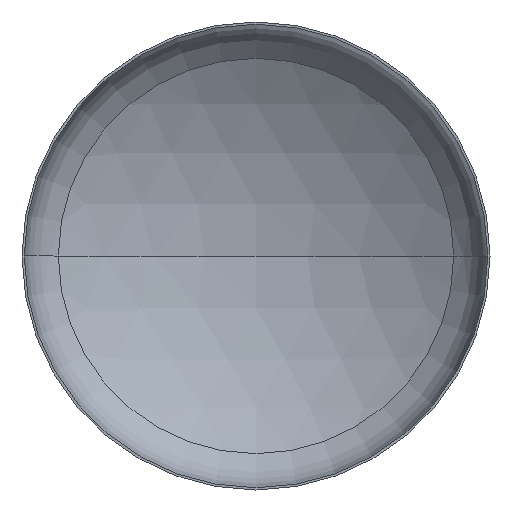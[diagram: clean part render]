
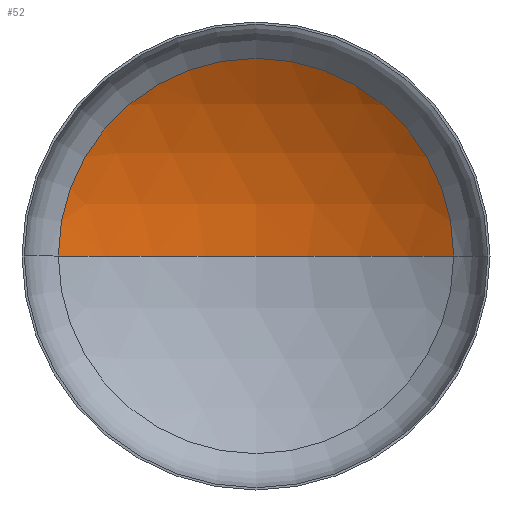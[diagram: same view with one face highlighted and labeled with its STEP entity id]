
A CAD part, front view. The second image highlights one B-rep face of the part: STEP entity #52.
In plain terms, the highlighted spherical face has radius 5600 mm.
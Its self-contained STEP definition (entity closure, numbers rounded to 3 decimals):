
#24 = CARTESIAN_POINT ( 'NONE',  ( 0., 1871.067, 0. ) ) ;
#29 = DIRECTION ( 'NONE',  ( 0., 0., -1. ) ) ;
#35 = VERTEX_POINT ( 'NONE', #233 ) ;
#52 = ADVANCED_FACE ( 'NONE', ( #108 ), #378, .F. ) ;
#55 = CIRCLE ( 'NONE', #65, 5600. ) ;
#65 = AXIS2_PLACEMENT_3D ( 'NONE', #302, #118, #283 ) ;
#72 = VERTEX_POINT ( 'NONE', #24 ) ;
#76 = AXIS2_PLACEMENT_3D ( 'NONE', #281, #29, #324 ) ;
#78 = AXIS2_PLACEMENT_3D ( 'NONE', #262, #391, #257 ) ;
#83 = ORIENTED_EDGE ( 'NONE', *, *, #125, .T. ) ;
#94 = ORIENTED_EDGE ( 'NONE', *, *, #128, .T. ) ;
#97 = AXIS2_PLACEMENT_3D ( 'NONE', #209, #215, #171 ) ;
#108 = FACE_OUTER_BOUND ( 'NONE', #134, .T. ) ;
#118 = DIRECTION ( 'NONE',  ( 0., 0., 1. ) ) ;
#125 = EDGE_CURVE ( 'NONE', #35, #142, #196, .T. ) ;
#128 = EDGE_CURVE ( 'NONE', #72, #35, #363, .T. ) ;
#131 = EDGE_CURVE ( 'NONE', #72, #142, #55, .T. ) ;
#134 = EDGE_LOOP ( 'NONE', ( #160, #94, #83 ) ) ;
#142 = VERTEX_POINT ( 'NONE', #343 ) ;
#160 = ORIENTED_EDGE ( 'NONE', *, *, #131, .F. ) ;
#171 = DIRECTION ( 'NONE',  ( -1., 0., 0. ) ) ;
#196 = CIRCLE ( 'NONE', #78, 2956.106 ) ;
#209 = CARTESIAN_POINT ( 'NONE',  ( 0., -3728.933, 0. ) ) ;
#215 = DIRECTION ( 'NONE',  ( 0., 0., -1. ) ) ;
#233 = CARTESIAN_POINT ( 'NONE',  ( 2956.106, 1027.267, 0. ) ) ;
#257 = DIRECTION ( 'NONE',  ( 1., 0., 0. ) ) ;
#262 = CARTESIAN_POINT ( 'NONE',  ( 0., 1027.267, 0. ) ) ;
#281 = CARTESIAN_POINT ( 'NONE',  ( 0., -3728.933, 0. ) ) ;
#283 = DIRECTION ( 'NONE',  ( 1., 0., 0. ) ) ;
#302 = CARTESIAN_POINT ( 'NONE',  ( 0., -3728.933, 0. ) ) ;
#324 = DIRECTION ( 'NONE',  ( -1., 0., 0. ) ) ;
#343 = CARTESIAN_POINT ( 'NONE',  ( -2956.106, 1027.267, 0. ) ) ;
#363 = CIRCLE ( 'NONE', #76, 5600. ) ;
#378 = SPHERICAL_SURFACE ( 'NONE', #97, 5600. ) ;
#391 = DIRECTION ( 'NONE',  ( 0., -1., 0. ) ) ;
